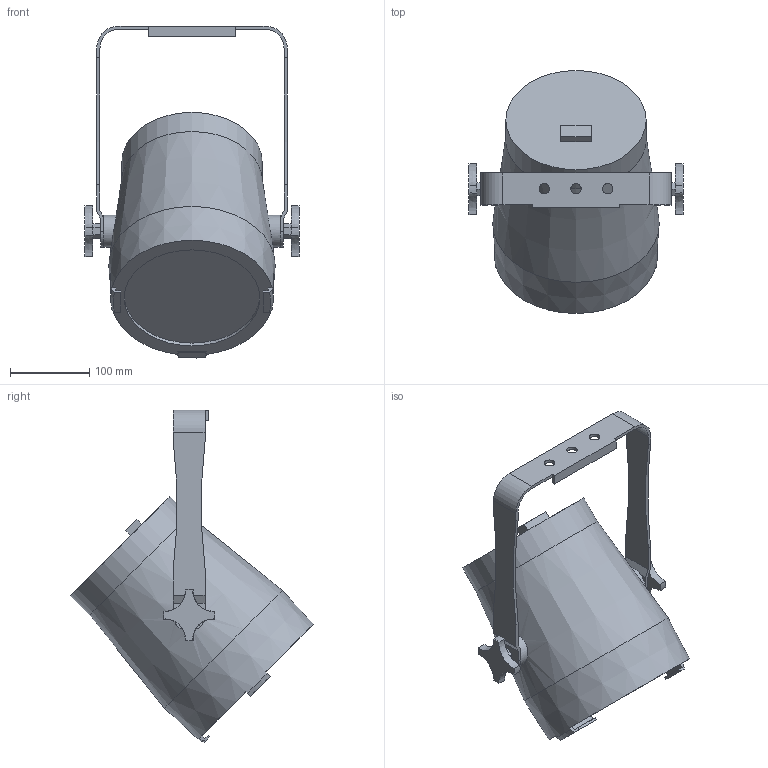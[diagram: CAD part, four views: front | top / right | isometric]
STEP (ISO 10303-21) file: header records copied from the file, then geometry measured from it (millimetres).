
FILE_DESCRIPTION(/* description */ (''),/* implementation_level */ '2;1');
FILE_NAME(/* name */ 'D:/dgooch/Documents/CADENG/PRO/COLORado 3 Solo/45/3D/COLORado 3 Solo_45.step',/* time_stamp */ '2019-09-11T09:54:35-04:00',/* author */ (''),/* organization */ (''),/* preprocessor_version */ 'ST-DEVELOPER v18',/* originating_system */ 'Autodesk Translation Framework v8.6.0.1094',/* authorisation */ '');
FILE_SCHEMA (('AUTOMOTIVE_DESIGN { 1 0 10303 214 3 1 1 }'));
Length unit declared in the file: millimetre
Products named in the file (4): COLORADO2SOLO; Bracket; RD-SS354XCEM-009-A; Main
Assembly tree (3 placements, depth 3):
  COLORADO2SOLO
    Bracket
      RD-SS354XCEM-009-A
    Main
Bounding box: 269.93 x 306.06 x 418.27 mm (x, y, z)
Volume: 7292603.8 mm3; surface area: 306986.1 mm2
Topology: 3 solids, 3 shells, 113 faces, 299 edges, 200 vertices
Faces by surface type: plane 72, cone 21, cylinder 20
Full cylindrical faces by diameter (mm): 9.8 x3, 13 x3, 40 x2, 171 x1, 176.944 x1
Entity records: 3793 total; most frequent: CARTESIAN_POINT 858, ORIENTED_EDGE 598, DIRECTION 584, EDGE_CURVE 299, AXIS2_PLACEMENT_3D 201, VERTEX_POINT 200, LINE 182, VECTOR 182
